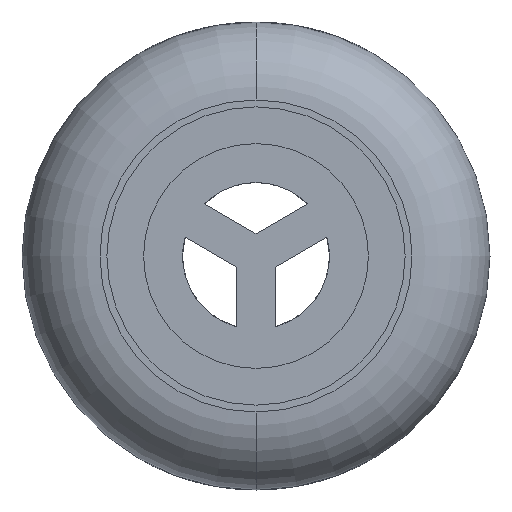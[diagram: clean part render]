
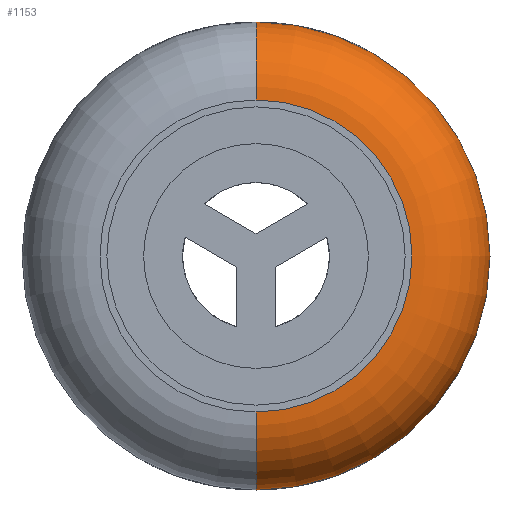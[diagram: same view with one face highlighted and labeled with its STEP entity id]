
A CAD part, front view. The second image highlights one B-rep face of the part: STEP entity #1153.
In plain terms, the highlighted toroidal (fillet/blend) face has major radius 3.4 mm and minor radius 1.7 mm.
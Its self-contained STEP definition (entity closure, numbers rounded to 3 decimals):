
#69 = CARTESIAN_POINT ( 'NONE',  ( 0., 2.8, 5.1 ) ) ;
#85 = DIRECTION ( 'NONE',  ( -1., 0., 0. ) ) ;
#120 = VERTEX_POINT ( 'NONE', #69 ) ;
#143 = DIRECTION ( 'NONE',  ( 0., -1., 0. ) ) ;
#157 = EDGE_CURVE ( 'NONE', #545, #120, #221, .T. ) ;
#195 = DIRECTION ( 'NONE',  ( 0., 0., 1. ) ) ;
#221 = CIRCLE ( 'NONE', #1193, 5.1 ) ;
#281 = ORIENTED_EDGE ( 'NONE', *, *, #766, .F. ) ;
#298 = AXIS2_PLACEMENT_3D ( 'NONE', #942, #143, #381 ) ;
#326 = AXIS2_PLACEMENT_3D ( 'NONE', #962, #1294, #399 ) ;
#328 = VERTEX_POINT ( 'NONE', #447 ) ;
#362 = VERTEX_POINT ( 'NONE', #1142 ) ;
#374 = CIRCLE ( 'NONE', #650, 1.7 ) ;
#381 = DIRECTION ( 'NONE',  ( 0., 0., -1. ) ) ;
#399 = DIRECTION ( 'NONE',  ( 0., 0., -1. ) ) ;
#407 = DIRECTION ( 'NONE',  ( 0., -1., 0. ) ) ;
#447 = CARTESIAN_POINT ( 'NONE',  ( 0., 1.1, -3.4 ) ) ;
#470 = FACE_OUTER_BOUND ( 'NONE', #1027, .T. ) ;
#504 = CARTESIAN_POINT ( 'NONE',  ( 0., 2.8, -5.1 ) ) ;
#510 = TOROIDAL_SURFACE ( 'NONE', #671, 3.4, 1.7 ) ;
#545 = VERTEX_POINT ( 'NONE', #504 ) ;
#620 = CIRCLE ( 'NONE', #326, 1.7 ) ;
#647 = EDGE_CURVE ( 'NONE', #120, #362, #620, .T. ) ;
#650 = AXIS2_PLACEMENT_3D ( 'NONE', #1427, #85, #195 ) ;
#671 = AXIS2_PLACEMENT_3D ( 'NONE', #1113, #1109, #993 ) ;
#731 = CIRCLE ( 'NONE', #298, 3.4 ) ;
#766 = EDGE_CURVE ( 'NONE', #328, #362, #731, .T. ) ;
#942 = CARTESIAN_POINT ( 'NONE',  ( 0., 1.1, 0. ) ) ;
#945 = ORIENTED_EDGE ( 'NONE', *, *, #157, .T. ) ;
#962 = CARTESIAN_POINT ( 'NONE',  ( 0., 2.8, 3.4 ) ) ;
#969 = CARTESIAN_POINT ( 'NONE',  ( 0., 2.8, 0. ) ) ;
#993 = DIRECTION ( 'NONE',  ( 0., 0., -1. ) ) ;
#1022 = EDGE_CURVE ( 'NONE', #545, #328, #374, .T. ) ;
#1027 = EDGE_LOOP ( 'NONE', ( #945, #1272, #281, #1241 ) ) ;
#1109 = DIRECTION ( 'NONE',  ( 0., -1., 0. ) ) ;
#1113 = CARTESIAN_POINT ( 'NONE',  ( 0., 2.8, 0. ) ) ;
#1142 = CARTESIAN_POINT ( 'NONE',  ( 0., 1.1, 3.4 ) ) ;
#1153 = ADVANCED_FACE ( 'NONE', ( #470 ), #510, .T. ) ;
#1193 = AXIS2_PLACEMENT_3D ( 'NONE', #969, #407, #1436 ) ;
#1241 = ORIENTED_EDGE ( 'NONE', *, *, #1022, .F. ) ;
#1272 = ORIENTED_EDGE ( 'NONE', *, *, #647, .T. ) ;
#1294 = DIRECTION ( 'NONE',  ( 1., 0., 0. ) ) ;
#1427 = CARTESIAN_POINT ( 'NONE',  ( 0., 2.8, -3.4 ) ) ;
#1436 = DIRECTION ( 'NONE',  ( 0., 0., -1. ) ) ;
